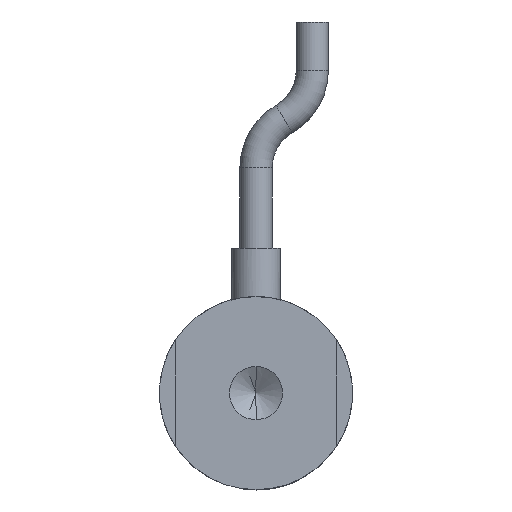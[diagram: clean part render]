
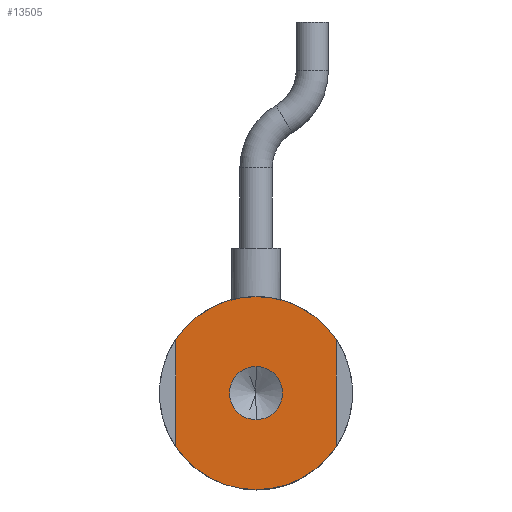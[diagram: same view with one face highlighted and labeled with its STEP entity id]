
A CAD part, front view. The second image highlights one B-rep face of the part: STEP entity #13505.
In plain terms, the highlighted planar face has unit normal (0, -1, 0).
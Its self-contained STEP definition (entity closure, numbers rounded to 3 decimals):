
#1060 = DIRECTION ( 'NONE',  ( 0., 0., 1. ) ) ;
#1200 = DIRECTION ( 'NONE',  ( 0., 1., 0. ) ) ;
#1783 = CARTESIAN_POINT ( 'NONE',  ( 0., 0., 0. ) ) ;
#1864 = LINE ( 'NONE', #31909, #38375 ) ;
#2022 = DIRECTION ( 'NONE',  ( 0., 0., 1. ) ) ;
#2031 = VERTEX_POINT ( 'NONE', #3348 ) ;
#2074 = EDGE_CURVE ( 'NONE', #14170, #25816, #15040, .T. ) ;
#2579 = CARTESIAN_POINT ( 'NONE',  ( 0., 0., 0. ) ) ;
#3348 = CARTESIAN_POINT ( 'NONE',  ( -5., 0., 3.317 ) ) ;
#3357 = CARTESIAN_POINT ( 'NONE',  ( 0., 0., 0. ) ) ;
#4602 = EDGE_CURVE ( 'NONE', #28999, #14170, #21500, .T. ) ;
#5265 = EDGE_CURVE ( 'NONE', #13404, #38062, #33136, .T. ) ;
#5698 = EDGE_CURVE ( 'NONE', #2031, #13022, #9625, .T. ) ;
#6290 = FACE_OUTER_BOUND ( 'NONE', #38541, .T. ) ;
#6862 = DIRECTION ( 'NONE',  ( 0., 0., -1. ) ) ;
#8675 = EDGE_LOOP ( 'NONE', ( #16701, #29574 ) ) ;
#8835 = VECTOR ( 'NONE', #37618, 1000. ) ;
#9111 = CARTESIAN_POINT ( 'NONE',  ( 0., 0., -6. ) ) ;
#9346 = DIRECTION ( 'NONE',  ( 0., 0., 1. ) ) ;
#9390 = DIRECTION ( 'NONE',  ( 0., 1., 0. ) ) ;
#9461 = CARTESIAN_POINT ( 'NONE',  ( 0., 0., 0. ) ) ;
#9625 = CIRCLE ( 'NONE', #41929, 6. ) ;
#10280 = ORIENTED_EDGE ( 'NONE', *, *, #5698, .F. ) ;
#12472 = CARTESIAN_POINT ( 'NONE',  ( 0., 0., -1.65 ) ) ;
#13022 = VERTEX_POINT ( 'NONE', #42645 ) ;
#13023 = DIRECTION ( 'NONE',  ( 0., 1., 0. ) ) ;
#13404 = VERTEX_POINT ( 'NONE', #18968 ) ;
#13505 = ADVANCED_FACE ( 'NONE', ( #15445, #6290 ), #43655, .F. ) ;
#13522 = ORIENTED_EDGE ( 'NONE', *, *, #4602, .F. ) ;
#14170 = VERTEX_POINT ( 'NONE', #9111 ) ;
#15040 = CIRCLE ( 'NONE', #40115, 6. ) ;
#15310 = EDGE_CURVE ( 'NONE', #26626, #28999, #1864, .T. ) ;
#15445 = FACE_BOUND ( 'NONE', #8675, .T. ) ;
#16019 = CARTESIAN_POINT ( 'NONE',  ( -5., 0., -3.317 ) ) ;
#16701 = ORIENTED_EDGE ( 'NONE', *, *, #21829, .F. ) ;
#17955 = CARTESIAN_POINT ( 'NONE',  ( 5., 0., -3.317 ) ) ;
#18968 = CARTESIAN_POINT ( 'NONE',  ( 0., 0., 1.65 ) ) ;
#21315 = AXIS2_PLACEMENT_3D ( 'NONE', #33398, #33339, #33291 ) ;
#21500 = CIRCLE ( 'NONE', #22154, 6. ) ;
#21574 = ORIENTED_EDGE ( 'NONE', *, *, #15310, .F. ) ;
#21692 = AXIS2_PLACEMENT_3D ( 'NONE', #2579, #13023, #36863 ) ;
#21829 = EDGE_CURVE ( 'NONE', #38062, #13404, #26380, .T. ) ;
#22154 = AXIS2_PLACEMENT_3D ( 'NONE', #28983, #28928, #28835 ) ;
#22166 = ORIENTED_EDGE ( 'NONE', *, *, #41382, .F. ) ;
#22640 = DIRECTION ( 'NONE',  ( 0., 1., 0. ) ) ;
#23512 = AXIS2_PLACEMENT_3D ( 'NONE', #3357, #27364, #6862 ) ;
#23522 = CIRCLE ( 'NONE', #43937, 6. ) ;
#24359 = CARTESIAN_POINT ( 'NONE',  ( -5., 0., 0. ) ) ;
#25037 = DIRECTION ( 'NONE',  ( 0., 0., -1. ) ) ;
#25816 = VERTEX_POINT ( 'NONE', #16019 ) ;
#26380 = CIRCLE ( 'NONE', #23512, 1.65 ) ;
#26626 = VERTEX_POINT ( 'NONE', #31112 ) ;
#27364 = DIRECTION ( 'NONE',  ( 0., -1., 0. ) ) ;
#28835 = DIRECTION ( 'NONE',  ( 0., 0., 1. ) ) ;
#28928 = DIRECTION ( 'NONE',  ( 0., 1., 0. ) ) ;
#28983 = CARTESIAN_POINT ( 'NONE',  ( 0., 0., 0. ) ) ;
#28999 = VERTEX_POINT ( 'NONE', #17955 ) ;
#29574 = ORIENTED_EDGE ( 'NONE', *, *, #5265, .F. ) ;
#31112 = CARTESIAN_POINT ( 'NONE',  ( 5., 0., 3.317 ) ) ;
#31219 = ORIENTED_EDGE ( 'NONE', *, *, #2074, .F. ) ;
#31909 = CARTESIAN_POINT ( 'NONE',  ( 5., 0., 0. ) ) ;
#33136 = CIRCLE ( 'NONE', #21315, 1.65 ) ;
#33291 = DIRECTION ( 'NONE',  ( 0., 0., -1. ) ) ;
#33339 = DIRECTION ( 'NONE',  ( 0., -1., 0. ) ) ;
#33398 = CARTESIAN_POINT ( 'NONE',  ( 0., 0., 0. ) ) ;
#33500 = EDGE_CURVE ( 'NONE', #13022, #26626, #23522, .T. ) ;
#36863 = DIRECTION ( 'NONE',  ( 0., 0., 1. ) ) ;
#37203 = LINE ( 'NONE', #24359, #8835 ) ;
#37585 = ORIENTED_EDGE ( 'NONE', *, *, #33500, .F. ) ;
#37618 = DIRECTION ( 'NONE',  ( 0., 0., 1. ) ) ;
#38062 = VERTEX_POINT ( 'NONE', #12472 ) ;
#38375 = VECTOR ( 'NONE', #25037, 1000. ) ;
#38541 = EDGE_LOOP ( 'NONE', ( #22166, #31219, #13522, #21574, #37585, #10280 ) ) ;
#40115 = AXIS2_PLACEMENT_3D ( 'NONE', #1783, #1200, #1060 ) ;
#41382 = EDGE_CURVE ( 'NONE', #25816, #2031, #37203, .T. ) ;
#41929 = AXIS2_PLACEMENT_3D ( 'NONE', #9461, #9390, #9346 ) ;
#42645 = CARTESIAN_POINT ( 'NONE',  ( 0., 0., 6. ) ) ;
#43117 = CARTESIAN_POINT ( 'NONE',  ( 0., 0., 0. ) ) ;
#43655 = PLANE ( 'NONE',  #21692 ) ;
#43937 = AXIS2_PLACEMENT_3D ( 'NONE', #43117, #22640, #2022 ) ;
